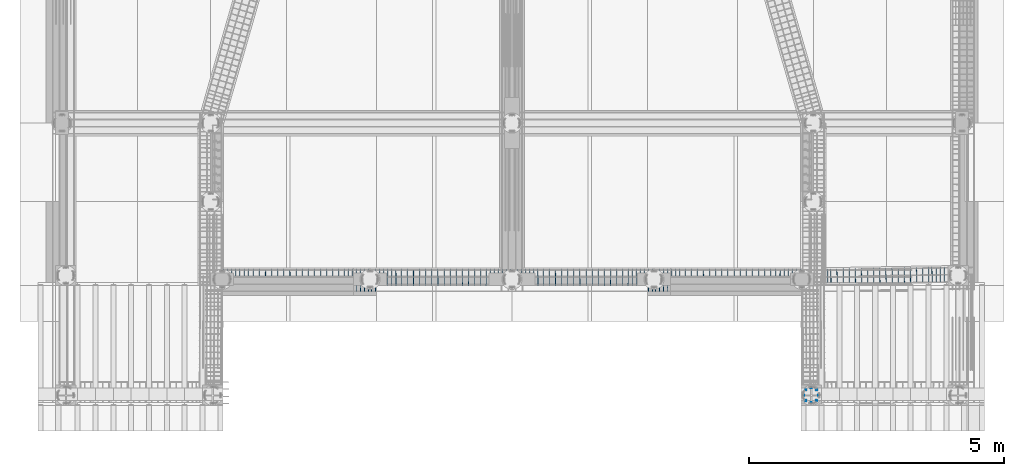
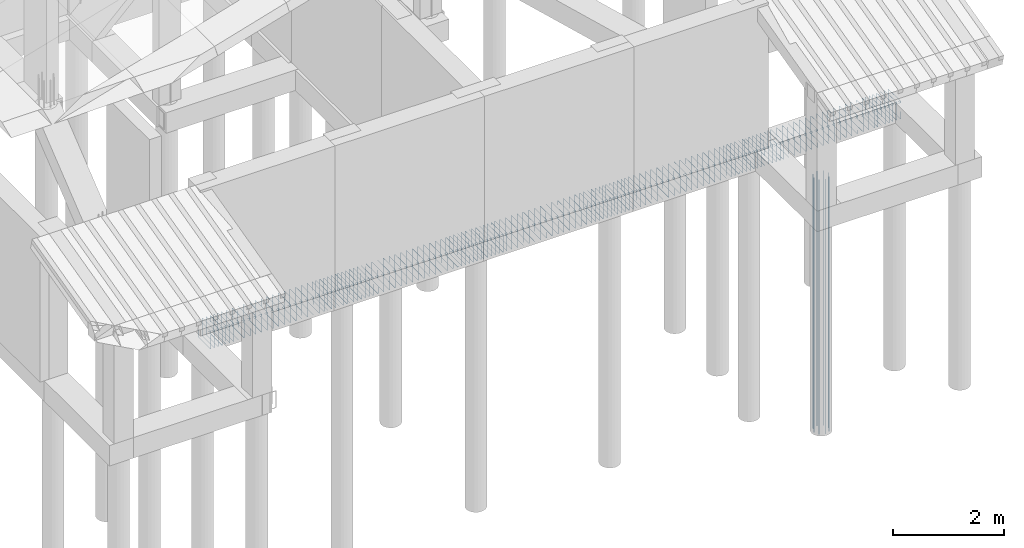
# One storey, part 4 of 13: 2 reinforcing bars.
"""IFC4 building model written with IfcOpenShell, lengths in metres."""

import ifcopenshell
import ifcopenshell.guid

model = None  # the IFC model being written
_history = None  # IfcOwnerHistory: only IFC2X3 demands one
_inside = {}  # id of a spatial element -> (the spatial element, [elements in it])
_under = {}  # id of a project, library or spatial element -> (it, [spatial elements below it])
_declared = {}  # id of a project -> (the project, [libraries it declares])
_typed = {}  # id of a type object -> (the type object, [elements of that type])
_made_of = {}  # id of a material, layer set ... -> (it, [elements and type objects made of it])


def new_model(schema):
    """Start an empty IFC model of exactly this schema.

    Asked for "IFC4X3", IfcOpenShell would pick the latest addendum, in which some entities
    have other attributes; the version numbers below select the first issue.
    IFC2X3 requires an IfcOwnerHistory on every rooted entity: one is made here for all.
    """
    global model, _history
    if schema == "IFC4X3":
        model = ifcopenshell.file(schema_version=(4, 3, 0, 0))
    else:
        model = ifcopenshell.file(schema=schema)
    _inside.clear()
    _under.clear()
    _declared.clear()
    _typed.clear()
    _made_of.clear()
    _history = None
    if model.schema == "IFC2X3":
        org = make("IfcOrganization", Name="unknown")
        user = make(
            "IfcPersonAndOrganization",
            ThePerson=make("IfcPerson", FamilyName="unknown"),
            TheOrganization=org,
        )
        app = make(
            "IfcApplication",
            ApplicationDeveloper=org,
            Version="unknown",
            ApplicationFullName="unknown",
            ApplicationIdentifier="unknown",
        )
        _history = make(
            "IfcOwnerHistory",
            OwningUser=user,
            OwningApplication=app,
            ChangeAction="ADDED",
            CreationDate=0,
        )
    return model


def make(cls, **values):
    """One entity of the class cls with the attributes given. An attribute that is None is left unset."""
    return model.create_entity(
        cls, **{name: value for name, value in values.items() if value is not None}
    )


def entity(cls, *values):
    """Any entity or typed value of the class cls, its attributes in the order of the schema. None: left unset."""
    e = model.create_entity(cls)
    for i, value in enumerate(values):
        if value is not None:
            e[i] = value
    return e


def rooted(cls, **values):
    """An entity with a GlobalId (a new one), such as an element, a storey or a relation."""
    return make(cls, GlobalId=ifcopenshell.guid.new(), OwnerHistory=_history, **values)


def si_unit(unit_type, name, prefix=None):
    """IfcSIUnit, for example si_unit("LENGTHUNIT", "METRE", prefix="MILLI")."""
    return make("IfcSIUnit", UnitType=unit_type, Prefix=prefix, Name=name)


def assignment(units):
    """IfcUnitAssignment: the units of a project."""
    return None if units is None else make("IfcUnitAssignment", Units=units)


def point(xyz):
    """IfcCartesianPoint."""
    return None if xyz is None else make("IfcCartesianPoint", Coordinates=xyz)


def direction(xyz):
    """IfcDirection."""
    return None if xyz is None else make("IfcDirection", DirectionRatios=xyz)


def frame(location, z_axis=None, x_axis=None):
    """IfcAxis2Placement3D, a coordinate frame: its origin and axes. An axis left out is left unset."""
    return make(
        "IfcAxis2Placement3D",
        Location=point(location),
        Axis=direction(z_axis),
        RefDirection=direction(x_axis),
    )


def origin_with_axes():
    """The frame at (0, 0, 0) with the z axis (0, 0, 1) and the x axis (1, 0, 0) written out."""
    return frame((0.0, 0.0, 0.0), z_axis=(0.0, 0.0, 1.0), x_axis=(1.0, 0.0, 0.0))


def place(relative_to, where):
    """IfcLocalPlacement: puts the frame where relative to a parent placement (None: the world)."""
    return make(
        "IfcLocalPlacement", PlacementRelTo=relative_to, RelativePlacement=where
    )


def context(
    kind, dimensions, precision=None, world=None, true_north=None, identifier=None
):
    """IfcGeometricRepresentationContext, for example the 3D "Model" context."""
    return make(
        "IfcGeometricRepresentationContext",
        ContextIdentifier=identifier,
        ContextType=kind,
        CoordinateSpaceDimension=dimensions,
        Precision=precision,
        WorldCoordinateSystem=world,
        TrueNorth=true_north,
    )


def project(units=None, contexts=None):
    """IfcProject with its units and contexts."""
    return rooted(
        "IfcProject",
        Name="project",
        RepresentationContexts=contexts,
        UnitsInContext=assignment(units),
    )


def spatial(cls, under=None, at=None, **own):
    """A site, building, storey or space (cls), placed at a placement, below another one or the project."""
    s = rooted(cls, ObjectPlacement=at, **own)
    if under is not None:
        _under.setdefault(under.id(), (under, []))[1].append(s)
    return s


def shape(context_of_items, identifier, shape_type, items):
    """IfcShapeRepresentation: the items that make up one representation, for example the "Body"."""
    return make(
        "IfcShapeRepresentation",
        ContextOfItems=context_of_items,
        RepresentationIdentifier=identifier,
        RepresentationType=shape_type,
        Items=items,
    )


def source(mapping_origin, context_of_items, identifier, shape_type, items):
    """IfcRepresentationMap: a shape defined once, which mapped items show again and again."""
    return make(
        "IfcRepresentationMap",
        MappingOrigin=mapping_origin,
        MappedRepresentation=shape(context_of_items, identifier, shape_type, items),
    )


def transform(
    local_origin,
    x_axis=None,
    y_axis=None,
    z_axis=None,
    scale=None,
    scale2=None,
    scale3=None,
    uniform=True,
):
    """IfcCartesianTransformationOperator3D, or its non-uniform kind. x_axis, y_axis, z_axis: its Axis1, 2, 3."""
    if uniform:
        return make(
            "IfcCartesianTransformationOperator3D",
            Axis1=direction(x_axis),
            Axis2=direction(y_axis),
            LocalOrigin=point(local_origin),
            Scale=scale,
            Axis3=direction(z_axis),
        )
    return make(
        "IfcCartesianTransformationOperator3DnonUniform",
        Axis1=direction(x_axis),
        Axis2=direction(y_axis),
        LocalOrigin=point(local_origin),
        Scale=scale,
        Axis3=direction(z_axis),
        Scale2=scale2,
        Scale3=scale3,
    )


def mapped(mapping_source, mapping_target):
    """IfcMappedItem: shows the shape of a source again, moved by a transform."""
    return make(
        "IfcMappedItem", MappingSource=mapping_source, MappingTarget=mapping_target
    )


def made_of(thing, what):
    """Note that an element or type object is made of a material, layer set ...; save() writes the relation."""
    if what is not None:
        _made_of.setdefault(what.id(), (what, []))[1].append(thing)
    return thing


def element(
    cls,
    number,
    at=None,
    inside=None,
    cuts=None,
    type_object=None,
    material=None,
    context=None,
    identifier="Body",
    shape_type=None,
    held_by="IfcProductDefinitionShape",
    body=None,
    shapes=None,
    **own,
):
    """One element of the class cls, such as IfcWall. Its Tag is "e" and its number.

    at: its placement. inside: the storey or other place that contains it. cuts: it is an
    opening in that element (IfcRelVoidsElement). A single representation is given by context,
    identifier, shape_type and body (its items); several are given by shapes. held_by: the class
    of the entity that holds the representations. save() writes the other relations.
    """
    e = rooted(cls, Tag="e%d" % number, ObjectPlacement=at, **own)
    if body is not None:
        shapes = [shape(context, identifier, shape_type, body)]
    if shapes is not None:
        e.Representation = make(held_by, Representations=shapes)
    if inside is not None:
        _inside.setdefault(inside.id(), (inside, []))[1].append(e)
    if cuts is not None:
        rooted(
            "IfcRelVoidsElement", RelatingBuildingElement=cuts, RelatedOpeningElement=e
        )
    if type_object is not None:
        _typed.setdefault(type_object.id(), (type_object, []))[1].append(e)
    return made_of(e, material)


def aggregate(whole, parts):
    """IfcRelAggregates: a whole, such as a stair, and the parts it consists of."""
    return rooted("IfcRelAggregates", RelatingObject=whole, RelatedObjects=parts)


def save(model, path):
    """Write the relations noted so far, then the file.

    IfcRelAggregates (storeys below a building ...), IfcRelContainedInSpatialStructure (elements
    in a storey), IfcRelDefinesByType, IfcRelAssociatesMaterial and IfcRelDeclares: one each for
    every whole, place, type object, material and project.
    """
    for whole, parts in _under.values():
        aggregate(whole, parts)
    for where, things in _inside.values():
        rooted(
            "IfcRelContainedInSpatialStructure",
            RelatedElements=things,
            RelatingStructure=where,
        )
    for kind, things in _typed.values():
        rooted("IfcRelDefinesByType", RelatedObjects=things, RelatingType=kind)
    for what, things in _made_of.values():
        rooted("IfcRelAssociatesMaterial", RelatedObjects=things, RelatingMaterial=what)
    for by, libraries in _declared.values():
        rooted("IfcRelDeclares", RelatingContext=by, RelatedDefinitions=libraries)
    model.write(path)


model = new_model("IFC4")

# Units and contexts
model_context = context("Model", 3, precision=1e-05, world=origin_with_axes())
ifc_project = project(units=[si_unit("LENGTHUNIT", "METRE"), si_unit("AREAUNIT", "SQUARE_METRE"), si_unit("VOLUMEUNIT", "CUBIC_METRE"), si_unit("MASSUNIT", "GRAM", prefix="KILO"), si_unit("TIMEUNIT", "SECOND"), si_unit("PLANEANGLEUNIT", "RADIAN"), si_unit("SOLIDANGLEUNIT", "STERADIAN"), si_unit("THERMODYNAMICTEMPERATUREUNIT", "DEGREE_CELSIUS")], contexts=[model_context])

# Site, building, storey
placement_1 = place(None, origin_with_axes())
site = spatial("IfcSite", under=ifc_project, at=placement_1, Name="Italia", CompositionType="ELEMENT")
building = spatial("IfcBuilding", under=site, at=placement_1, Name="Villa", CompositionType="ELEMENT")
storey = spatial("IfcBuildingStorey", under=building, at=placement_1, Name="Storey 0", CompositionType="ELEMENT", Elevation=0.0)

# Reinforcing bars
shared_shape_1 = source(origin_with_axes(), model_context, "Body", "AdvancedSweptSolid", [
    entity("IfcSweptDiskSolid", entity("IfcIndexedPolyCurve", entity("IfcCartesianPointList3D", [[15.0647, 0.0953482, -5.0], [15.0647, 0.0953482, 0.6]]), [entity("IfcLineIndex", [1, 2])], False), 0.008),
])
placement_2 = place(placement_1, origin_with_axes())
reinforcing_bar_1_placement = place(placement_2, origin_with_axes())
element("IfcReinforcingBar", 1, at=reinforcing_bar_1_placement, inside=storey, BarLength=5.6, CrossSectionArea=0.00020106, NominalDiameter=0.016, context=model_context, shape_type="MappedRepresentation", body=[
    mapped(shared_shape_1, transform((-0.252651, 0.104652, 0.0), x_axis=(1.0, 0.0, 0.0), y_axis=(0.0, 1.0, 0.0), z_axis=(0.0, 0.0, 1.0), scale=1.0)),
    mapped(shared_shape_1, transform((-0.209303, 0.209304, 0.0), x_axis=(1.0, 0.0, 0.0), y_axis=(0.0, 1.0, 0.0), z_axis=(0.0, 0.0, 1.0), scale=1.0)),
    mapped(shared_shape_1, transform((-0.104651, -0.0433482, 0.0), x_axis=(1.0, 0.0, 0.0), y_axis=(0.0, 1.0, 0.0), z_axis=(0.0, 0.0, 1.0), scale=1.0)),
    mapped(shared_shape_1, transform((-0.209303, 0.0, 0.0), x_axis=(1.0, 0.0, 0.0), y_axis=(0.0, 1.0, 0.0), z_axis=(0.0, 0.0, 1.0), scale=1.0)),
    mapped(shared_shape_1, transform((0.0433483, 0.104652, 0.0), x_axis=(1.0, 0.0, 0.0), y_axis=(0.0, 1.0, 0.0), z_axis=(0.0, 0.0, 1.0), scale=1.0)),
    mapped(shared_shape_1, transform((0.0, 0.0, 0.0), x_axis=(1.0, 0.0, 0.0), y_axis=(0.0, 1.0, 0.0), z_axis=(0.0, 0.0, 1.0), scale=1.0)),
    mapped(shared_shape_1, transform((-0.104651, 0.252652, 0.0), x_axis=(1.0, 0.0, 0.0), y_axis=(0.0, 1.0, 0.0), z_axis=(0.0, 0.0, 1.0), scale=1.0)),
    mapped(shared_shape_1, transform((0.0, 0.209304, 0.0), x_axis=(1.0, 0.0, 0.0), y_axis=(0.0, 1.0, 0.0), z_axis=(0.0, 0.0, 1.0), scale=1.0)),
])
shared_shape_2 = source(origin_with_axes(), model_context, "Body", "AdvancedSweptSolid", [
    entity("IfcSweptDiskSolid", entity("IfcIndexedPolyCurve", entity("IfcCartesianPointList3D", [[3.438, 2.29971, -0.120711], [3.43754, 2.23193, -0.0529289], [3.43751, 2.229, -0.0458579], [3.43747, 2.229, -0.039], [3.43746, 2.22976, -0.0351732], [3.43744, 2.23193, -0.0319289], [3.43742, 2.23517, -0.0297612], [3.4374, 2.239, -0.029], [3.43539, 2.661, -0.029], [3.43537, 2.66483, -0.0297612], [3.43535, 2.66807, -0.0319289], [3.43533, 2.67024, -0.0351732], [3.43532, 2.671, -0.039], [3.43354, 2.671, -0.411], [3.43353, 2.67024, -0.414827], [3.43351, 2.66807, -0.418071], [3.43349, 2.66483, -0.420239], [3.43347, 2.661, -0.421], [3.43146, 2.239, -0.421], [3.43144, 2.23517, -0.420239], [3.43142, 2.23193, -0.418071], [3.4314, 2.22976, -0.414827], [3.43139, 2.229, -0.411], [3.42961, 2.229, -0.039], [3.4296, 2.22976, -0.0351732], [3.42958, 2.23193, -0.0319289], [3.42956, 2.23517, -0.0297612], [3.42954, 2.239, -0.029], [3.42951, 2.24586, -0.029], [3.42947, 2.25293, -0.0319289], [3.42901, 2.32071, -0.0997114]]), [entity("IfcLineIndex", [1, 2]), entity("IfcLineIndex", [2, 3]), entity("IfcLineIndex", [3, 4]), entity("IfcLineIndex", [4, 5]), entity("IfcLineIndex", [5, 6]), entity("IfcLineIndex", [6, 7]), entity("IfcLineIndex", [7, 8]), entity("IfcLineIndex", [8, 9]), entity("IfcLineIndex", [9, 10]), entity("IfcLineIndex", [10, 11]), entity("IfcLineIndex", [11, 12]), entity("IfcLineIndex", [12, 13]), entity("IfcLineIndex", [13, 14]), entity("IfcLineIndex", [14, 15]), entity("IfcLineIndex", [15, 16]), entity("IfcLineIndex", [16, 17]), entity("IfcLineIndex", [17, 18]), entity("IfcLineIndex", [18, 19]), entity("IfcLineIndex", [19, 20]), entity("IfcLineIndex", [20, 21]), entity("IfcLineIndex", [21, 22]), entity("IfcLineIndex", [22, 23]), entity("IfcLineIndex", [23, 24]), entity("IfcLineIndex", [24, 25]), entity("IfcLineIndex", [25, 26]), entity("IfcLineIndex", [26, 27]), entity("IfcLineIndex", [27, 28]), entity("IfcLineIndex", [28, 29]), entity("IfcLineIndex", [29, 30]), entity("IfcLineIndex", [30, 31])], False), 0.004),
])
reinforcing_bar_2_placement = place(placement_2, origin_with_axes())
element("IfcReinforcingBar", 2, at=reinforcing_bar_2_placement, inside=storey, BarLength=1.8868, CrossSectionArea=5.0265e-05, NominalDiameter=0.008, context=model_context, shape_type="MappedRepresentation", body=[
    mapped(shared_shape_2, transform((14.4175, -0.0118513, -0.00184813), x_axis=(0.999855, 0.0170112, 0.000540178), y_axis=(-0.0170112, 0.999855, 0.0), z_axis=(-0.000540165, 0.0, 1.0), scale=1.0)),
    mapped(shared_shape_2, transform((9.53165, -0.000655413, -0.000616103), x_axis=(1.0, 0.000190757, 0.000180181), y_axis=(-0.000190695, 1.0, 0.0), z_axis=(-0.000180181, 0.0, 1.0), scale=1.0)),
    mapped(shared_shape_2, transform((9.65165, -0.000655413, -0.000616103), x_axis=(1.0, 0.000190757, 0.000180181), y_axis=(-0.000190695, 1.0, 0.0), z_axis=(-0.000180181, 0.0, 1.0), scale=1.0)),
    mapped(shared_shape_2, transform((9.77165, -0.000655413, -0.000616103), x_axis=(1.0, 0.000190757, 0.000180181), y_axis=(-0.000190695, 1.0, 0.0), z_axis=(-0.000180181, 0.0, 1.0), scale=1.0)),
    mapped(shared_shape_2, transform((9.41165, -0.000655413, -0.000616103), x_axis=(1.0, 0.000190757, 0.000180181), y_axis=(-0.000190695, 1.0, 0.0), z_axis=(-0.000180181, 0.0, 1.0), scale=1.0)),
    mapped(shared_shape_2, transform((9.05165, -0.000655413, -0.000616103), x_axis=(1.0, 0.000190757, 0.000180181), y_axis=(-0.000190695, 1.0, 0.0), z_axis=(-0.000180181, 0.0, 1.0), scale=1.0)),
    mapped(shared_shape_2, transform((9.17165, -0.000655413, -0.000616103), x_axis=(1.0, 0.000190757, 0.000180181), y_axis=(-0.000190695, 1.0, 0.0), z_axis=(-0.000180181, 0.0, 1.0), scale=1.0)),
    mapped(shared_shape_2, transform((9.29165, -0.000655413, -0.000616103), x_axis=(1.0, 0.000190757, 0.000180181), y_axis=(-0.000190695, 1.0, 0.0), z_axis=(-0.000180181, 0.0, 1.0), scale=1.0)),
    mapped(shared_shape_2, transform((8.95042, -0.000655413, -0.000616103), x_axis=(1.0, 0.000190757, 0.000180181), y_axis=(-0.000190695, 1.0, 0.0), z_axis=(-0.000180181, 0.0, 1.0), scale=1.0)),
    mapped(shared_shape_2, transform((10.7317, -0.000655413, -0.000616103), x_axis=(1.0, 0.000190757, 0.000180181), y_axis=(-0.000190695, 1.0, 0.0), z_axis=(-0.000180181, 0.0, 1.0), scale=1.0)),
    mapped(shared_shape_2, transform((10.8329, -0.000655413, -0.000616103), x_axis=(1.0, 0.000190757, 0.000180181), y_axis=(-0.000190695, 1.0, 0.0), z_axis=(-0.000180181, 0.0, 1.0), scale=1.0)),
    mapped(shared_shape_2, transform((9.89165, -0.000655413, -0.000616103), x_axis=(1.0, 0.000190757, 0.000180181), y_axis=(-0.000190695, 1.0, 0.0), z_axis=(-0.000180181, 0.0, 1.0), scale=1.0)),
    mapped(shared_shape_2, transform((10.6117, -0.000655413, -0.000616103), x_axis=(1.0, 0.000190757, 0.000180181), y_axis=(-0.000190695, 1.0, 0.0), z_axis=(-0.000180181, 0.0, 1.0), scale=1.0)),
    mapped(shared_shape_2, transform((10.2517, -0.000655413, -0.000616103), x_axis=(1.0, 0.000190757, 0.000180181), y_axis=(-0.000190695, 1.0, 0.0), z_axis=(-0.000180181, 0.0, 1.0), scale=1.0)),
    mapped(shared_shape_2, transform((10.3717, -0.000655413, -0.000616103), x_axis=(1.0, 0.000190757, 0.000180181), y_axis=(-0.000190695, 1.0, 0.0), z_axis=(-0.000180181, 0.0, 1.0), scale=1.0)),
    mapped(shared_shape_2, transform((10.4917, -0.000655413, -0.000616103), x_axis=(1.0, 0.000190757, 0.000180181), y_axis=(-0.000190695, 1.0, 0.0), z_axis=(-0.000180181, 0.0, 1.0), scale=1.0)),
    mapped(shared_shape_2, transform((10.1317, -0.000655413, -0.000616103), x_axis=(1.0, 0.000190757, 0.000180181), y_axis=(-0.000190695, 1.0, 0.0), z_axis=(-0.000180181, 0.0, 1.0), scale=1.0)),
    mapped(shared_shape_2, transform((8.09242, -0.000655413, -0.000616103), x_axis=(1.0, 0.000190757, 0.000180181), y_axis=(-0.000190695, 1.0, 0.0), z_axis=(-0.000180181, 0.0, 1.0), scale=1.0)),
    mapped(shared_shape_2, transform((8.87042, -0.000655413, -0.000616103), x_axis=(1.0, 0.000190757, 0.000180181), y_axis=(-0.000190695, 1.0, 0.0), z_axis=(-0.000180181, 0.0, 1.0), scale=1.0)),
    mapped(shared_shape_2, transform((10.0117, -0.000655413, -0.000616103), x_axis=(1.0, 0.000190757, 0.000180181), y_axis=(-0.000190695, 1.0, 0.0), z_axis=(-0.000180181, 0.0, 1.0), scale=1.0)),
    mapped(shared_shape_2, transform((8.01242, -0.000655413, -0.000616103), x_axis=(1.0, 0.000190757, 0.000180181), y_axis=(-0.000190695, 1.0, 0.0), z_axis=(-0.000180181, 0.0, 1.0), scale=1.0)),
    mapped(shared_shape_2, transform((7.70892, -0.000655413, -0.000616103), x_axis=(1.0, 0.000190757, 0.000180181), y_axis=(-0.000190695, 1.0, 0.0), z_axis=(-0.000180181, 0.0, 1.0), scale=1.0)),
    mapped(shared_shape_2, transform((7.82892, -0.000655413, -0.000616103), x_axis=(1.0, 0.000190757, 0.000180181), y_axis=(-0.000190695, 1.0, 0.0), z_axis=(-0.000180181, 0.0, 1.0), scale=1.0)),
    mapped(shared_shape_2, transform((7.93242, -0.000655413, -0.000616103), x_axis=(1.0, 0.000190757, 0.000180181), y_axis=(-0.000190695, 1.0, 0.0), z_axis=(-0.000180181, 0.0, 1.0), scale=1.0)),
    mapped(shared_shape_2, transform((7.58892, -0.000655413, -0.000616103), x_axis=(1.0, 0.000190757, 0.000180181), y_axis=(-0.000190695, 1.0, 0.0), z_axis=(-0.000180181, 0.0, 1.0), scale=1.0)),
    mapped(shared_shape_2, transform((8.17242, -0.000655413, -0.000616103), x_axis=(1.0, 0.000190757, 0.000180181), y_axis=(-0.000190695, 1.0, 0.0), z_axis=(-0.000180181, 0.0, 1.0), scale=1.0)),
    mapped(shared_shape_2, transform((7.34892, -0.000655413, -0.000616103), x_axis=(1.0, 0.000190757, 0.000180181), y_axis=(-0.000190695, 1.0, 0.0), z_axis=(-0.000180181, 0.0, 1.0), scale=1.0)),
    mapped(shared_shape_2, transform((7.46892, -0.000655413, -0.000616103), x_axis=(1.0, 0.000190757, 0.000180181), y_axis=(-0.000190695, 1.0, 0.0), z_axis=(-0.000180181, 0.0, 1.0), scale=1.0)),
    mapped(shared_shape_2, transform((8.79042, -0.000655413, -0.000616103), x_axis=(1.0, 0.000190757, 0.000180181), y_axis=(-0.000190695, 1.0, 0.0), z_axis=(-0.000180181, 0.0, 1.0), scale=1.0)),
    mapped(shared_shape_2, transform((8.55042, -0.000655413, -0.000616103), x_axis=(1.0, 0.000190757, 0.000180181), y_axis=(-0.000190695, 1.0, 0.0), z_axis=(-0.000180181, 0.0, 1.0), scale=1.0)),
    mapped(shared_shape_2, transform((8.63042, -0.000655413, -0.000616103), x_axis=(1.0, 0.000190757, 0.000180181), y_axis=(-0.000190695, 1.0, 0.0), z_axis=(-0.000180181, 0.0, 1.0), scale=1.0)),
    mapped(shared_shape_2, transform((8.71042, -0.000655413, -0.000616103), x_axis=(1.0, 0.000190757, 0.000180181), y_axis=(-0.000190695, 1.0, 0.0), z_axis=(-0.000180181, 0.0, 1.0), scale=1.0)),
    mapped(shared_shape_2, transform((8.47042, -0.000655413, -0.000616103), x_axis=(1.0, 0.000190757, 0.000180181), y_axis=(-0.000190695, 1.0, 0.0), z_axis=(-0.000180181, 0.0, 1.0), scale=1.0)),
    mapped(shared_shape_2, transform((8.25242, -0.000655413, -0.000616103), x_axis=(1.0, 0.000190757, 0.000180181), y_axis=(-0.000190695, 1.0, 0.0), z_axis=(-0.000180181, 0.0, 1.0), scale=1.0)),
    mapped(shared_shape_2, transform((8.33242, -0.000655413, -0.000616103), x_axis=(1.0, 0.000190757, 0.000180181), y_axis=(-0.000190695, 1.0, 0.0), z_axis=(-0.000180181, 0.0, 1.0), scale=1.0)),
    mapped(shared_shape_2, transform((8.41242, -0.000655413, -0.000616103), x_axis=(1.0, 0.000190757, 0.000180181), y_axis=(-0.000190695, 1.0, 0.0), z_axis=(-0.000180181, 0.0, 1.0), scale=1.0)),
    mapped(shared_shape_2, transform((10.9129, -0.000655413, -0.000616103), x_axis=(1.0, 0.000190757, 0.000180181), y_axis=(-0.000190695, 1.0, 0.0), z_axis=(-0.000180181, 0.0, 1.0), scale=1.0)),
    mapped(shared_shape_2, transform((11.4093, -0.0587964, 0.000587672), x_axis=(0.999868, 0.0162727, -0.000170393), y_axis=(-0.0162726, 0.999868, 0.0), z_axis=(0.000170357, 0.0, 1.0), scale=1.0)),
    mapped(shared_shape_2, transform((14.1775, -0.0157962, -0.00184146), x_axis=(0.999855, 0.0170105, 0.000539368), y_axis=(-0.0170104, 0.999855, 0.0), z_axis=(-0.000539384, 0.0, 1.0), scale=1.0)),
    mapped(shared_shape_2, transform((11.1529, -0.000655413, -0.000616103), x_axis=(1.0, 0.000190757, 0.000180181), y_axis=(-0.000190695, 1.0, 0.0), z_axis=(-0.000180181, 0.0, 1.0), scale=1.0)),
    mapped(shared_shape_2, transform((11.5703, -0.0577278, -0.000989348), x_axis=(0.99986, 0.0167322, 0.000289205), y_axis=(-0.0167321, 0.99986, 0.0), z_axis=(-0.000289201, 0.0, 1.0), scale=1.0)),
    mapped(shared_shape_2, transform((11.7297, -0.0543163, -0.000200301), x_axis=(0.999864, 0.0165029, 5.98377e-05), y_axis=(-0.0165028, 0.999864, 0.0), z_axis=(-5.98679e-05, 0.0, 1.0), scale=1.0)),
    mapped(shared_shape_2, transform((11.8102, -0.0537806, -0.000989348), x_axis=(0.99986, 0.0167322, 0.000289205), y_axis=(-0.0167321, 0.99986, 0.0), z_axis=(-0.000289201, 0.0, 1.0), scale=1.0)),
    mapped(shared_shape_2, transform((13.033, -0.032877, -0.000204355), x_axis=(0.999864, 0.0165028, 5.9813e-05), y_axis=(-0.0165028, 0.999864, 0.0), z_axis=(-5.98142e-05, 0.0, 1.0), scale=1.0)),
    mapped(shared_shape_2, transform((13.393, -0.0269508, -0.000202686), x_axis=(0.999864, 0.0165011, 5.81904e-05), y_axis=(-0.0165011, 0.999864, 0.0), z_axis=(-5.81633e-05, 0.0, 1.0), scale=1.0)),
    mapped(shared_shape_2, transform((14.3364, -0.0114357, -0.000205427), x_axis=(0.999864, 0.016502, 5.90081e-05), y_axis=(-0.0165019, 0.999864, 0.0), z_axis=(-5.89809e-05, 0.0, 1.0), scale=1.0)),
    mapped(shared_shape_2, transform((13.633, -0.0230033, -0.000202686), x_axis=(0.999864, 0.0165011, 5.81904e-05), y_axis=(-0.0165011, 0.999864, 0.0), z_axis=(-5.81633e-05, 0.0, 1.0), scale=1.0)),
    mapped(shared_shape_2, transform((13.9364, -0.0180147, -0.000201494), x_axis=(0.999864, 0.016502, 5.90163e-05), y_axis=(-0.016502, 0.999864, 0.0), z_axis=(-5.90181e-05, 0.0, 1.0), scale=1.0)),
    mapped(shared_shape_2, transform((12.5531, -0.0407693, -0.000201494), x_axis=(0.999864, 0.016502, 5.90163e-05), y_axis=(-0.016502, 0.999864, 0.0), z_axis=(-5.90181e-05, 0.0, 1.0), scale=1.0)),
    mapped(shared_shape_2, transform((12.9131, -0.0348508, -0.000200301), x_axis=(0.999864, 0.0165029, 5.98377e-05), y_axis=(-0.0165028, 0.999864, 0.0), z_axis=(-5.98679e-05, 0.0, 1.0), scale=1.0)),
    mapped(shared_shape_2, transform((13.153, -0.0309012, -0.000201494), x_axis=(0.999864, 0.016502, 5.90163e-05), y_axis=(-0.016502, 0.999864, 0.0), z_axis=(-5.90181e-05, 0.0, 1.0), scale=1.0)),
    mapped(shared_shape_2, transform((14.0964, -0.0153856, -0.000200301), x_axis=(0.999864, 0.0165029, 5.98377e-05), y_axis=(-0.0165028, 0.999864, 0.0), z_axis=(-5.98679e-05, 0.0, 1.0), scale=1.0)),
    mapped(shared_shape_2, transform((13.8729, -0.0190616, -0.000200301), x_axis=(0.999864, 0.0165029, 5.98377e-05), y_axis=(-0.0165028, 0.999864, 0.0), z_axis=(-5.98679e-05, 0.0, 1.0), scale=1.0)),
    mapped(shared_shape_2, transform((12.6731, -0.0387931, -0.000198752), x_axis=(0.999864, 0.0165012, 5.8227e-05), y_axis=(-0.0165012, 0.999864, 0.0), z_axis=(-5.82289e-05, 0.0, 1.0), scale=1.0)),
    mapped(shared_shape_2, transform((11.3129, -0.000655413, -0.000616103), x_axis=(1.0, 0.000190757, 0.000180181), y_axis=(-0.000190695, 1.0, 0.0), z_axis=(-0.000180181, 0.0, 1.0), scale=1.0)),
    mapped(shared_shape_2, transform((11.2329, -0.000655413, -0.000616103), x_axis=(1.0, 0.000190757, 0.000180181), y_axis=(-0.000190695, 1.0, 0.0), z_axis=(-0.000180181, 0.0, 1.0), scale=1.0)),
    mapped(shared_shape_2, transform((11.4897, -0.0581789, -0.00016728), x_axis=(0.999864, 0.016478, 4.90508e-05), y_axis=(-0.0164779, 0.999864, 0.0), z_axis=(-4.90535e-05, 0.0, 1.0), scale=1.0)),
    mapped(shared_shape_2, transform((13.2729, -0.028764, -0.000132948), x_axis=(0.999865, 0.016454, 3.91274e-05), y_axis=(-0.0164539, 0.999865, 0.0), z_axis=(-3.91324e-05, 0.0, 1.0), scale=1.0)),
    mapped(shared_shape_2, transform((13.5129, -0.0248165, -0.000132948), x_axis=(0.999865, 0.016454, 3.91274e-05), y_axis=(-0.0164539, 0.999865, 0.0), z_axis=(-3.91324e-05, 0.0, 1.0), scale=1.0)),
    mapped(shared_shape_2, transform((12.793, -0.0366616, -0.000131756), x_axis=(0.999865, 0.0164548, 3.99392e-05), y_axis=(-0.0164548, 0.999865, 0.0), z_axis=(-3.99721e-05, 0.0, 1.0), scale=1.0)),
    mapped(shared_shape_2, transform((13.7528, -0.0208695, -0.000129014), x_axis=(0.999865, 0.0164541, 3.91518e-05), y_axis=(-0.016454, 0.999865, 0.0), z_axis=(-3.91848e-05, 0.0, 1.0), scale=1.0)),
    mapped(shared_shape_2, transform((11.9527, -0.0498571, 0.000583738), x_axis=(0.999868, 0.0162726, -0.000170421), y_axis=(-0.0162725, 0.999868, 0.0), z_axis=(0.000170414, 0.0, 1.0), scale=1.0)),
    mapped(shared_shape_2, transform((12.0727, -0.0478835, 0.000583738), x_axis=(0.999868, 0.0162726, -0.000170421), y_axis=(-0.0162725, 0.999868, 0.0), z_axis=(0.000170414, 0.0, 1.0), scale=1.0)),
    mapped(shared_shape_2, transform((11.6492, -0.0548437, 0.000585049), x_axis=(0.999868, 0.016271, -0.000172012), y_axis=(-0.0162709, 0.999868, 0.0), z_axis=(0.000172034, 0.0, 1.0), scale=1.0)),
    mapped(shared_shape_2, transform((12.1926, -0.0459075, 0.00058648), x_axis=(0.999868, 0.0162718, -0.000171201), y_axis=(-0.0162718, 0.999868, 0.0), z_axis=(0.000171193, 0.0, 1.0), scale=1.0)),
    mapped(shared_shape_2, transform((12.3126, -0.0439336, 0.00058648), x_axis=(0.999868, 0.0162718, -0.000171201), y_axis=(-0.0162718, 0.999868, 0.0), z_axis=(0.000171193, 0.0, 1.0), scale=1.0)),
    mapped(shared_shape_2, transform((11.8892, -0.050899, 0.00058648), x_axis=(0.999868, 0.0162718, -0.000171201), y_axis=(-0.0162718, 0.999868, 0.0), z_axis=(0.000171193, 0.0, 1.0), scale=1.0)),
    mapped(shared_shape_2, transform((12.4326, -0.0419574, 0.000589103), x_axis=(0.999868, 0.016271, -0.000171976), y_axis=(-0.016271, 0.999868, 0.0), z_axis=(0.000171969, 0.0, 1.0), scale=1.0)),
    mapped(shared_shape_2, transform((14.0154, -0.0151303, 0.00137708), x_axis=(0.999871, 0.0160409, -0.000402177), y_axis=(-0.0160408, 0.999871, 0.0), z_axis=(0.000402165, 0.0, 1.0), scale=1.0)),
    mapped(shared_shape_2, transform((14.2553, -0.0111828, 0.00137314), x_axis=(0.999871, 0.0160408, -0.000402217), y_axis=(-0.0160407, 0.999871, 0.0), z_axis=(0.000402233, 0.0, 1.0), scale=1.0)),
    mapped(shared_shape_2, transform((11.0729, -0.000655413, -0.000616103), x_axis=(1.0, 0.000190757, 0.000180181), y_axis=(-0.000190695, 1.0, 0.0), z_axis=(-0.000180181, 0.0, 1.0), scale=1.0)),
    mapped(shared_shape_2, transform((10.9929, -0.000655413, -0.000616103), x_axis=(1.0, 0.000190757, 0.000180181), y_axis=(-0.000190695, 1.0, 0.0), z_axis=(-0.000180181, 0.0, 1.0), scale=1.0)),
    mapped(shared_shape_2, transform((7.22892, -0.000655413, -0.000616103), x_axis=(1.0, 0.000190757, 0.000180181), y_axis=(-0.000190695, 1.0, 0.0), z_axis=(-0.000180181, 0.0, 1.0), scale=1.0)),
    mapped(shared_shape_2, transform((5.92542, -0.000655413, -0.000616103), x_axis=(1.0, 0.000190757, 0.000180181), y_axis=(-0.000190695, 1.0, 0.0), z_axis=(-0.000180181, 0.0, 1.0), scale=1.0)),
    mapped(shared_shape_2, transform((5.68542, -0.000655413, -0.000616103), x_axis=(1.0, 0.000190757, 0.000180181), y_axis=(-0.000190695, 1.0, 0.0), z_axis=(-0.000180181, 0.0, 1.0), scale=1.0)),
    mapped(shared_shape_2, transform((5.76542, -0.000655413, -0.000616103), x_axis=(1.0, 0.000190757, 0.000180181), y_axis=(-0.000190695, 1.0, 0.0), z_axis=(-0.000180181, 0.0, 1.0), scale=1.0)),
    mapped(shared_shape_2, transform((5.84542, -0.000655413, -0.000616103), x_axis=(1.0, 0.000190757, 0.000180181), y_axis=(-0.000190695, 1.0, 0.0), z_axis=(-0.000180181, 0.0, 1.0), scale=1.0)),
    mapped(shared_shape_2, transform((5.62742, -0.000655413, -0.000616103), x_axis=(1.0, 0.000190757, 0.000180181), y_axis=(-0.000190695, 1.0, 0.0), z_axis=(-0.000180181, 0.0, 1.0), scale=1.0)),
    mapped(shared_shape_2, transform((5.46742, -0.000655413, -0.000616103), x_axis=(1.0, 0.000190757, 0.000180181), y_axis=(-0.000190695, 1.0, 0.0), z_axis=(-0.000180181, 0.0, 1.0), scale=1.0)),
    mapped(shared_shape_2, transform((6.08542, -0.000655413, -0.000616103), x_axis=(1.0, 0.000190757, 0.000180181), y_axis=(-0.000190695, 1.0, 0.0), z_axis=(-0.000180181, 0.0, 1.0), scale=1.0)),
    mapped(shared_shape_2, transform((5.54742, -0.000655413, -0.000616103), x_axis=(1.0, 0.000190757, 0.000180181), y_axis=(-0.000190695, 1.0, 0.0), z_axis=(-0.000180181, 0.0, 1.0), scale=1.0)),
    mapped(shared_shape_2, transform((6.98892, -0.000655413, -0.000616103), x_axis=(1.0, 0.000190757, 0.000180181), y_axis=(-0.000190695, 1.0, 0.0), z_axis=(-0.000180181, 0.0, 1.0), scale=1.0)),
    mapped(shared_shape_2, transform((6.00542, -0.000655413, -0.000616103), x_axis=(1.0, 0.000190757, 0.000180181), y_axis=(-0.000190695, 1.0, 0.0), z_axis=(-0.000180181, 0.0, 1.0), scale=1.0)),
    mapped(shared_shape_2, transform((0.48, 0.0, 0.0), x_axis=(1.0, 0.0, 0.0), y_axis=(0.0, 1.0, 0.0), z_axis=(0.0, 0.0, 1.0), scale=1.0)),
    mapped(shared_shape_2, transform((7.10892, -0.000655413, -0.000616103), x_axis=(1.0, 0.000190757, 0.000180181), y_axis=(-0.000190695, 1.0, 0.0), z_axis=(-0.000180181, 0.0, 1.0), scale=1.0)),
    mapped(shared_shape_2, transform((0.4, 0.0, 0.0), x_axis=(1.0, 0.0, 0.0), y_axis=(0.0, 1.0, 0.0), z_axis=(0.0, 0.0, 1.0), scale=1.0)),
    mapped(shared_shape_2, transform((0.160001, 0.0, 0.0), x_axis=(1.0, 0.0, 0.0), y_axis=(0.0, 1.0, 0.0), z_axis=(0.0, 0.0, 1.0), scale=1.0)),
    mapped(shared_shape_2, transform((0.24, 0.0, 0.0), x_axis=(1.0, 0.0, 0.0), y_axis=(0.0, 1.0, 0.0), z_axis=(0.0, 0.0, 1.0), scale=1.0)),
    mapped(shared_shape_2, transform((0.32, 0.0, 0.0), x_axis=(1.0, 0.0, 0.0), y_axis=(0.0, 1.0, 0.0), z_axis=(0.0, 0.0, 1.0), scale=1.0)),
    mapped(shared_shape_2, transform((0.0800004, 0.0, 0.0), x_axis=(1.0, 0.0, 0.0), y_axis=(0.0, 1.0, 0.0), z_axis=(0.0, 0.0, 1.0), scale=1.0)),
    mapped(shared_shape_2, transform((0.0, 0.0, 0.0), x_axis=(1.0, 0.0, 0.0), y_axis=(0.0, 1.0, 0.0), z_axis=(0.0, 0.0, 1.0), scale=1.0)),
    mapped(shared_shape_2, transform((3.29986, 0.000218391, 0.000205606), x_axis=(1.0, -6.35033e-05, -6.00015e-05), y_axis=(6.35605e-05, 1.0, 0.0), z_axis=(6.00014e-05, 0.0, 1.0), scale=1.0)),
    mapped(shared_shape_2, transform((3.21986, 0.000218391, 0.000205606), x_axis=(1.0, -6.35033e-05, -6.00015e-05), y_axis=(6.35605e-05, 1.0, 0.0), z_axis=(6.00014e-05, 0.0, 1.0), scale=1.0)),
    mapped(shared_shape_2, transform((2.68186, 0.000218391, 0.000205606), x_axis=(1.0, -6.35033e-05, -6.00015e-05), y_axis=(6.35605e-05, 1.0, 0.0), z_axis=(6.00014e-05, 0.0, 1.0), scale=1.0)),
    mapped(shared_shape_2, transform((2.89986, 0.000218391, 0.000205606), x_axis=(1.0, -6.35033e-05, -6.00015e-05), y_axis=(6.35605e-05, 1.0, 0.0), z_axis=(6.00014e-05, 0.0, 1.0), scale=1.0)),
    mapped(shared_shape_2, transform((2.97986, 0.000218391, 0.000205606), x_axis=(1.0, -6.35033e-05, -6.00015e-05), y_axis=(6.35605e-05, 1.0, 0.0), z_axis=(6.00014e-05, 0.0, 1.0), scale=1.0)),
    mapped(shared_shape_2, transform((2.60186, 0.000218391, 0.000205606), x_axis=(1.0, -6.35033e-05, -6.00015e-05), y_axis=(6.35605e-05, 1.0, 0.0), z_axis=(6.00014e-05, 0.0, 1.0), scale=1.0)),
    mapped(shared_shape_2, transform((2.76186, 0.000218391, 0.000205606), x_axis=(1.0, -6.35033e-05, -6.00015e-05), y_axis=(6.35605e-05, 1.0, 0.0), z_axis=(6.00014e-05, 0.0, 1.0), scale=1.0)),
    mapped(shared_shape_2, transform((0.580862, 0.000218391, 0.000205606), x_axis=(1.0, -6.35033e-05, -6.00015e-05), y_axis=(6.35605e-05, 1.0, 0.0), z_axis=(6.00014e-05, 0.0, 1.0), scale=1.0)),
    mapped(shared_shape_2, transform((0.700862, 0.000218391, 0.000205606), x_axis=(1.0, -6.35033e-05, -6.00015e-05), y_axis=(6.35605e-05, 1.0, 0.0), z_axis=(6.00014e-05, 0.0, 1.0), scale=1.0)),
    mapped(shared_shape_2, transform((3.37986, 0.000218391, 0.000205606), x_axis=(1.0, -6.35033e-05, -6.00015e-05), y_axis=(6.35605e-05, 1.0, 0.0), z_axis=(6.00014e-05, 0.0, 1.0), scale=1.0)),
    mapped(shared_shape_2, transform((3.13986, 0.000218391, 0.000205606), x_axis=(1.0, -6.35033e-05, -6.00015e-05), y_axis=(6.35605e-05, 1.0, 0.0), z_axis=(6.00014e-05, 0.0, 1.0), scale=1.0)),
    mapped(shared_shape_2, transform((1.18086, 0.000218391, 0.000205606), x_axis=(1.0, -6.35033e-05, -6.00015e-05), y_axis=(6.35605e-05, 1.0, 0.0), z_axis=(6.00014e-05, 0.0, 1.0), scale=1.0)),
    mapped(shared_shape_2, transform((1.30086, 0.000218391, 0.000205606), x_axis=(1.0, -6.35033e-05, -6.00015e-05), y_axis=(6.35605e-05, 1.0, 0.0), z_axis=(6.00014e-05, 0.0, 1.0), scale=1.0)),
    mapped(shared_shape_2, transform((3.05986, 0.000218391, 0.000205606), x_axis=(1.0, -6.35033e-05, -6.00015e-05), y_axis=(6.35605e-05, 1.0, 0.0), z_axis=(6.00014e-05, 0.0, 1.0), scale=1.0)),
    mapped(shared_shape_2, transform((2.84186, 0.000218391, 0.000205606), x_axis=(1.0, -6.35033e-05, -6.00015e-05), y_axis=(6.35605e-05, 1.0, 0.0), z_axis=(6.00014e-05, 0.0, 1.0), scale=1.0)),
    mapped(shared_shape_2, transform((1.78086, 0.000218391, 0.000205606), x_axis=(1.0, -6.35033e-05, -6.00015e-05), y_axis=(6.35605e-05, 1.0, 0.0), z_axis=(6.00014e-05, 0.0, 1.0), scale=1.0)),
    mapped(shared_shape_2, transform((0.820862, 0.000218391, 0.000205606), x_axis=(1.0, -6.35033e-05, -6.00015e-05), y_axis=(6.35605e-05, 1.0, 0.0), z_axis=(6.00014e-05, 0.0, 1.0), scale=1.0)),
    mapped(shared_shape_2, transform((1.42086, 0.000218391, 0.000205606), x_axis=(1.0, -6.35033e-05, -6.00015e-05), y_axis=(6.35605e-05, 1.0, 0.0), z_axis=(6.00014e-05, 0.0, 1.0), scale=1.0)),
    mapped(shared_shape_2, transform((1.54086, 0.000218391, 0.000205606), x_axis=(1.0, -6.35033e-05, -6.00015e-05), y_axis=(6.35605e-05, 1.0, 0.0), z_axis=(6.00014e-05, 0.0, 1.0), scale=1.0)),
    mapped(shared_shape_2, transform((2.36186, 0.000218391, 0.000205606), x_axis=(1.0, -6.35033e-05, -6.00015e-05), y_axis=(6.35605e-05, 1.0, 0.0), z_axis=(6.00014e-05, 0.0, 1.0), scale=1.0)),
    mapped(shared_shape_2, transform((2.44186, 0.000218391, 0.000205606), x_axis=(1.0, -6.35033e-05, -6.00015e-05), y_axis=(6.35605e-05, 1.0, 0.0), z_axis=(6.00014e-05, 0.0, 1.0), scale=1.0)),
    mapped(shared_shape_2, transform((0.940862, 0.000218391, 0.000205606), x_axis=(1.0, -6.35033e-05, -6.00015e-05), y_axis=(6.35605e-05, 1.0, 0.0), z_axis=(6.00014e-05, 0.0, 1.0), scale=1.0)),
    mapped(shared_shape_2, transform((1.06086, 0.000218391, 0.000205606), x_axis=(1.0, -6.35033e-05, -6.00015e-05), y_axis=(6.35605e-05, 1.0, 0.0), z_axis=(6.00014e-05, 0.0, 1.0), scale=1.0)),
    mapped(shared_shape_2, transform((1.90086, 0.000218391, 0.000205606), x_axis=(1.0, -6.35033e-05, -6.00015e-05), y_axis=(6.35605e-05, 1.0, 0.0), z_axis=(6.00014e-05, 0.0, 1.0), scale=1.0)),
    mapped(shared_shape_2, transform((2.02086, 0.000218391, 0.000205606), x_axis=(1.0, -6.35033e-05, -6.00015e-05), y_axis=(6.35605e-05, 1.0, 0.0), z_axis=(6.00014e-05, 0.0, 1.0), scale=1.0)),
    mapped(shared_shape_2, transform((2.52186, 0.000218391, 0.000205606), x_axis=(1.0, -6.35033e-05, -6.00015e-05), y_axis=(6.35605e-05, 1.0, 0.0), z_axis=(6.00014e-05, 0.0, 1.0), scale=1.0)),
    mapped(shared_shape_2, transform((1.66086, 0.000218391, 0.000205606), x_axis=(1.0, -6.35033e-05, -6.00015e-05), y_axis=(6.35605e-05, 1.0, 0.0), z_axis=(6.00014e-05, 0.0, 1.0), scale=1.0)),
    mapped(shared_shape_2, transform((4.08336, 0.000218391, 0.000205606), x_axis=(1.0, -6.35033e-05, -6.00015e-05), y_axis=(6.35605e-05, 1.0, 0.0), z_axis=(6.00014e-05, 0.0, 1.0), scale=1.0)),
    mapped(shared_shape_2, transform((4.20336, 0.000218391, 0.000205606), x_axis=(1.0, -6.35033e-05, -6.00015e-05), y_axis=(6.35605e-05, 1.0, 0.0), z_axis=(6.00014e-05, 0.0, 1.0), scale=1.0)),
    mapped(shared_shape_2, transform((2.14086, 0.000218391, 0.000205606), x_axis=(1.0, -6.35033e-05, -6.00015e-05), y_axis=(6.35605e-05, 1.0, 0.0), z_axis=(6.00014e-05, 0.0, 1.0), scale=1.0)),
    mapped(shared_shape_2, transform((2.26086, 0.000218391, 0.000205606), x_axis=(1.0, -6.35033e-05, -6.00015e-05), y_axis=(6.35605e-05, 1.0, 0.0), z_axis=(6.00014e-05, 0.0, 1.0), scale=1.0)),
    mapped(shared_shape_2, transform((3.60336, 0.000218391, 0.000205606), x_axis=(1.0, -6.35033e-05, -6.00015e-05), y_axis=(6.35605e-05, 1.0, 0.0), z_axis=(6.00014e-05, 0.0, 1.0), scale=1.0)),
    mapped(shared_shape_2, transform((3.72336, 0.000218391, 0.000205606), x_axis=(1.0, -6.35033e-05, -6.00015e-05), y_axis=(6.35605e-05, 1.0, 0.0), z_axis=(6.00014e-05, 0.0, 1.0), scale=1.0)),
    mapped(shared_shape_2, transform((3.84336, 0.000218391, 0.000205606), x_axis=(1.0, -6.35033e-05, -6.00015e-05), y_axis=(6.35605e-05, 1.0, 0.0), z_axis=(6.00014e-05, 0.0, 1.0), scale=1.0)),
    mapped(shared_shape_2, transform((3.96336, 0.000218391, 0.000205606), x_axis=(1.0, -6.35033e-05, -6.00015e-05), y_axis=(6.35605e-05, 1.0, 0.0), z_axis=(6.00014e-05, 0.0, 1.0), scale=1.0)),
    mapped(shared_shape_2, transform((4.32336, 0.000218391, 0.000205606), x_axis=(1.0, -6.35033e-05, -6.00015e-05), y_axis=(6.35605e-05, 1.0, 0.0), z_axis=(6.00014e-05, 0.0, 1.0), scale=1.0)),
    mapped(shared_shape_2, transform((4.44336, 0.000218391, 0.000205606), x_axis=(1.0, -6.35033e-05, -6.00015e-05), y_axis=(6.35605e-05, 1.0, 0.0), z_axis=(6.00014e-05, 0.0, 1.0), scale=1.0)),
    mapped(shared_shape_2, transform((3.48336, 0.000218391, 0.000205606), x_axis=(1.0, -6.35033e-05, -6.00015e-05), y_axis=(6.35605e-05, 1.0, 0.0), z_axis=(6.00014e-05, 0.0, 1.0), scale=1.0)),
    mapped(shared_shape_2, transform((6.62892, -0.000655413, -0.000616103), x_axis=(1.0, 0.000190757, 0.000180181), y_axis=(-0.000190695, 1.0, 0.0), z_axis=(-0.000180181, 0.0, 1.0), scale=1.0)),
    mapped(shared_shape_2, transform((6.74892, -0.000655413, -0.000616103), x_axis=(1.0, 0.000190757, 0.000180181), y_axis=(-0.000190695, 1.0, 0.0), z_axis=(-0.000180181, 0.0, 1.0), scale=1.0)),
    mapped(shared_shape_2, transform((6.86892, -0.000655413, -0.000616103), x_axis=(1.0, 0.000190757, 0.000180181), y_axis=(-0.000190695, 1.0, 0.0), z_axis=(-0.000180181, 0.0, 1.0), scale=1.0)),
    mapped(shared_shape_2, transform((6.50892, -0.000655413, -0.000616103), x_axis=(1.0, 0.000190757, 0.000180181), y_axis=(-0.000190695, 1.0, 0.0), z_axis=(-0.000180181, 0.0, 1.0), scale=1.0)),
    mapped(shared_shape_2, transform((6.16542, -0.000655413, -0.000616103), x_axis=(1.0, 0.000190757, 0.000180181), y_axis=(-0.000190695, 1.0, 0.0), z_axis=(-0.000180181, 0.0, 1.0), scale=1.0)),
    mapped(shared_shape_2, transform((6.26892, -0.000655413, -0.000616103), x_axis=(1.0, 0.000190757, 0.000180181), y_axis=(-0.000190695, 1.0, 0.0), z_axis=(-0.000180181, 0.0, 1.0), scale=1.0)),
    mapped(shared_shape_2, transform((6.38892, -0.000655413, -0.000616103), x_axis=(1.0, 0.000190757, 0.000180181), y_axis=(-0.000190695, 1.0, 0.0), z_axis=(-0.000180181, 0.0, 1.0), scale=1.0)),
    mapped(shared_shape_2, transform((5.38742, -0.000655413, -0.000616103), x_axis=(1.0, 0.000190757, 0.000180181), y_axis=(-0.000190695, 1.0, 0.0), z_axis=(-0.000180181, 0.0, 1.0), scale=1.0)),
    mapped(shared_shape_2, transform((5.14742, -0.000655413, -0.000616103), x_axis=(1.0, 0.000190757, 0.000180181), y_axis=(-0.000190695, 1.0, 0.0), z_axis=(-0.000180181, 0.0, 1.0), scale=1.0)),
    mapped(shared_shape_2, transform((5.22742, -0.000655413, -0.000616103), x_axis=(1.0, 0.000190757, 0.000180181), y_axis=(-0.000190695, 1.0, 0.0), z_axis=(-0.000180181, 0.0, 1.0), scale=1.0)),
    mapped(shared_shape_2, transform((5.30742, -0.000655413, -0.000616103), x_axis=(1.0, 0.000190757, 0.000180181), y_axis=(-0.000190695, 1.0, 0.0), z_axis=(-0.000180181, 0.0, 1.0), scale=1.0)),
    mapped(shared_shape_2, transform((5.04392, -0.000655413, -0.000616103), x_axis=(1.0, 0.000190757, 0.000180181), y_axis=(-0.000190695, 1.0, 0.0), z_axis=(-0.000180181, 0.0, 1.0), scale=1.0)),
    mapped(shared_shape_2, transform((4.68392, -0.000655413, -0.000616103), x_axis=(1.0, 0.000190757, 0.000180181), y_axis=(-0.000190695, 1.0, 0.0), z_axis=(-0.000180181, 0.0, 1.0), scale=1.0)),
    mapped(shared_shape_2, transform((4.80392, -0.000655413, -0.000616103), x_axis=(1.0, 0.000190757, 0.000180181), y_axis=(-0.000190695, 1.0, 0.0), z_axis=(-0.000180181, 0.0, 1.0), scale=1.0)),
    mapped(shared_shape_2, transform((4.92392, -0.000655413, -0.000616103), x_axis=(1.0, 0.000190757, 0.000180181), y_axis=(-0.000190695, 1.0, 0.0), z_axis=(-0.000180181, 0.0, 1.0), scale=1.0)),
    mapped(shared_shape_2, transform((4.56392, -0.000655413, -0.000616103), x_axis=(1.0, 0.000190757, 0.000180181), y_axis=(-0.000190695, 1.0, 0.0), z_axis=(-0.000180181, 0.0, 1.0), scale=1.0)),
])

save(model, "model.ifc")
